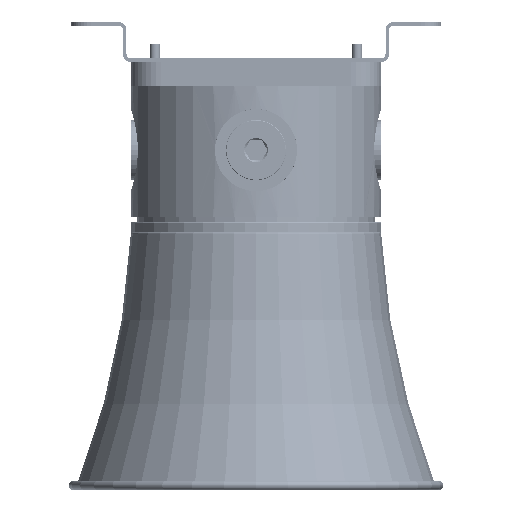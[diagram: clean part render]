
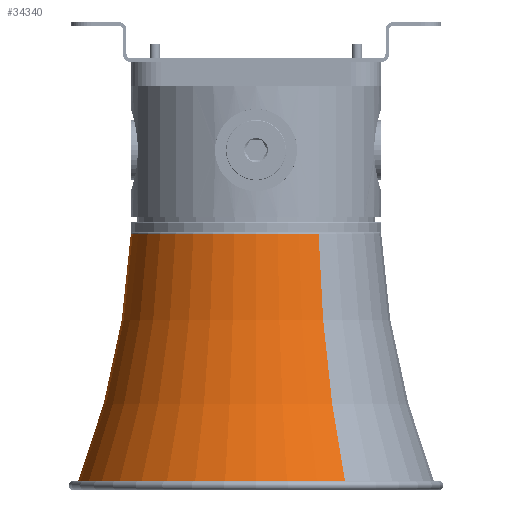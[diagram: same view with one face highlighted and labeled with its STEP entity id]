
A CAD part, front view. The second image highlights one B-rep face of the part: STEP entity #34340.
In plain terms, the highlighted toroidal (fillet/blend) face has major radius 462.029 mm and minor radius 400 mm.
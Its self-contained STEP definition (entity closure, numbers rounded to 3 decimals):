
#33363=CARTESIAN_POINT('',(0.,462.029,19.404));
#33364=DIRECTION('',(-1.,0.,0.));
#33365=DIRECTION('',(0.,-0.931,-0.366));
#33366=AXIS2_PLACEMENT_3D('',#33363,#33364,#33365);
#33373=CARTESIAN_POINT('',(0.,-462.029,
19.404));
#33374=DIRECTION('',(1.,0.,0.));
#33375=DIRECTION('',(0.,0.931,-0.366));
#33376=AXIS2_PLACEMENT_3D('',#33373,#33374,#33375);
#33715=CARTESIAN_POINT('',(0.,0.,-127.049));
#33716=DIRECTION('',(0.,0.,1.));
#33717=DIRECTION('',(0.,1.,0.));
#33718=AXIS2_PLACEMENT_3D('',#33715,#33716,#33717);
#33725=CARTESIAN_POINT('',(0.,0.,-0.76));
#33726=DIRECTION('',(0.,0.,1.));
#33727=DIRECTION('',(0.,1.,0.));
#33728=AXIS2_PLACEMENT_3D('',#33725,#33726,#33727);
#33736=CARTESIAN_POINT('',(0.,89.804,-127.049));
#33738=VERTEX_POINT('',#33736);
#33740=CARTESIAN_POINT('',(0.,-89.804,
-127.049));
#33742=VERTEX_POINT('',#33740);
#33819=CARTESIAN_POINT('',(0.,62.538,
-0.76));
#33820=CARTESIAN_POINT('',(0.,-62.538,
-0.76));
#33821=VERTEX_POINT('',#33819);
#33822=VERTEX_POINT('',#33820);
#34328=CARTESIAN_POINT('',(0.,0.,19.404));
#34329=DIRECTION('',(0.,0.,1.));
#34330=DIRECTION('',(0.,1.,0.));
#34331=AXIS2_PLACEMENT_3D('',#34328,#34329,#34330);
#34332=TOROIDAL_SURFACE('',#34331,462.029,400.);
#34334=ORIENTED_EDGE('',*,*,#34333,.T.);
#34335=ORIENTED_EDGE('',*,*,#33842,.F.);
#34336=ORIENTED_EDGE('',*,*,#34295,.F.);
#34337=ORIENTED_EDGE('',*,*,#33838,.T.);
#34338=EDGE_LOOP('',(#34334,#34335,#34336,#34337));
#34339=FACE_OUTER_BOUND('',#34338,.F.);
#34340=ADVANCED_FACE('',(#34339),#34332,.F.);
#33367=CIRCLE('',#33366,400.);
#33377=CIRCLE('',#33376,400.);
#33719=CIRCLE('',#33718,89.804);
#33729=CIRCLE('',#33728,62.538);
#33838=EDGE_CURVE('',#33738,#33821,#33367,.T.);
#33842=EDGE_CURVE('',#33742,#33822,#33377,.T.);
#34295=EDGE_CURVE('',#33738,#33742,#33719,.T.);
#34333=EDGE_CURVE('',#33821,#33822,#33729,.T.);
